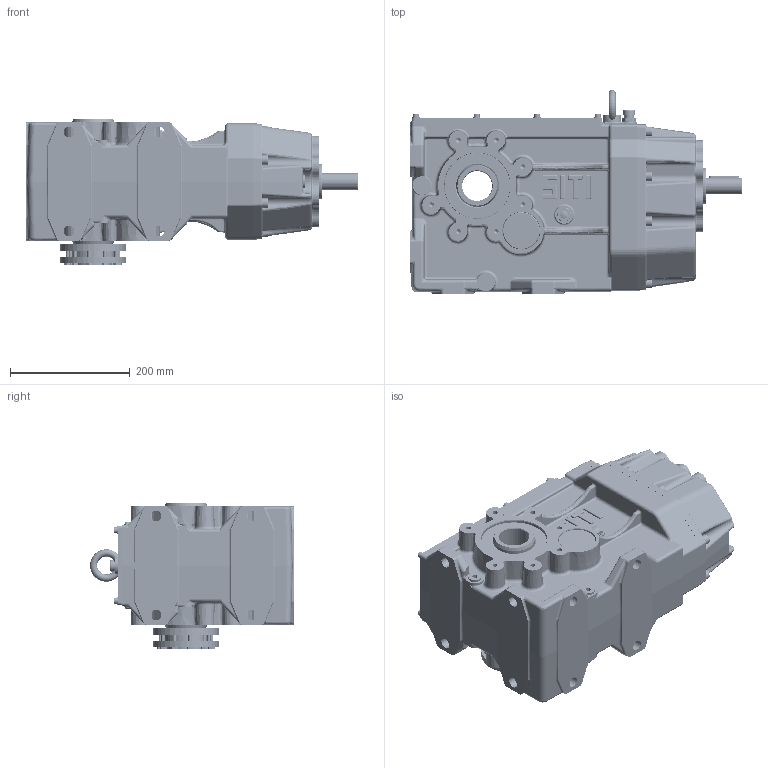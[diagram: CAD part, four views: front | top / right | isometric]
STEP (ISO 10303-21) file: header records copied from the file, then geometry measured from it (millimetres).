
FILE_DESCRIPTION((''),'2;1');
FILE_NAME('C:\Users\m.piscopiello.SITIRIDUTTORI\Desktop\3D x SITO\BH 100\BH_100 CC-A.stp','2013-05-02T10:28:51',('m.piscopiello'),(''),'Autodesk Inventor 2012','Autodesk Inventor 2012','');
FILE_SCHEMA(('CONFIG_CONTROL_DESIGN'));
Length unit declared in the file: millimetre
Products named in the file (1): BH_100 CC-A
Bounding box: 553.5 x 340 x 245 mm (x, y, z)
Volume: 6699051.7 mm3; surface area: 1460840.8 mm2
Topology: 45 solids, 51 shells, 3583 faces, 8434 edges, 5004 vertices
Faces by surface type: cylinder 1085, plane 1042, bspline 720, torus 320, cone 262, sphere 154
Full cylindrical faces by diameter (mm): 4.917 x8, 5 x1, 6 x37, 6.4 x9, 6.5 x20, 6.647 x8, 7 x8, 8.376 x22, 10 x20, 10.106 x3, 11 x10, 12 x8, 12.5 x8, 14.95 x1, 16 x9, 16.6 x7, 18 x8, 19 x1, 19.5 x1, 20 x1, 28 x1, 30 x4, 37.5 x1, 39.377 x1, 39.977 x2, 50 x2, 51 x1, 52 x1, 54.765 x1, 57 x1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
Entity records: 126132 total; most frequent: CARTESIAN_POINT 46563, DIRECTION 15461, ORIENTED_EDGE 15240, EDGE_CURVE 7620, AXIS2_PLACEMENT_3D 6391, VERTEX_POINT 4823, EDGE_LOOP 4369, STYLED_ITEM 3628
